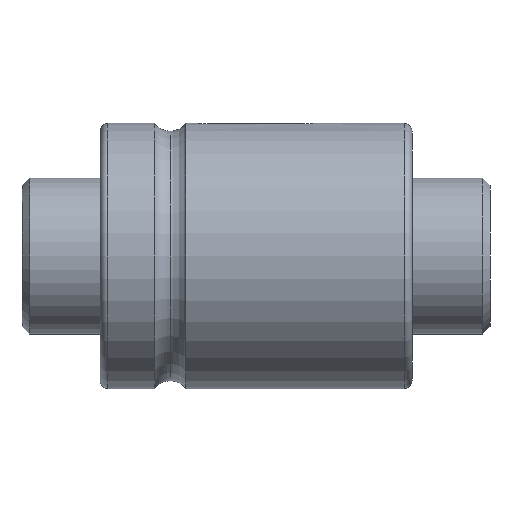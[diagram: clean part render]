
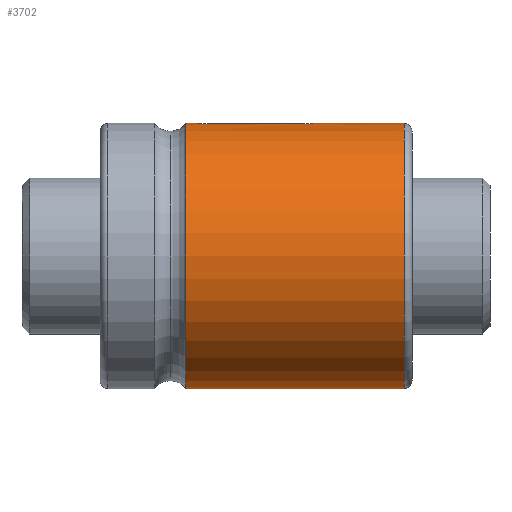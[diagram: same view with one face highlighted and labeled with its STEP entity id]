
A CAD part, front view. The second image highlights one B-rep face of the part: STEP entity #3702.
In plain terms, the highlighted cylindrical face has radius 17 mm (diameter 34 mm), a partial arc.
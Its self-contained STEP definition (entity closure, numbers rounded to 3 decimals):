
#9 = CARTESIAN_POINT ( 'NONE',  ( 13.517, -1.423, 16.94 ) ) ;
#46 = DIRECTION ( 'NONE',  ( -1., 0., 0. ) ) ;
#58 = DIRECTION ( 'NONE',  ( 0., 0., 1. ) ) ;
#69 = CARTESIAN_POINT ( 'NONE',  ( 13.086, -1.193, 16.958 ) ) ;
#105 = DIRECTION ( 'NONE',  ( -1., 0., 0. ) ) ;
#140 = CARTESIAN_POINT ( 'NONE',  ( 26.756, -1.31, 16.95 ) ) ;
#175 = EDGE_CURVE ( 'NONE', #746, #1050, #1422, .T. ) ;
#242 = EDGE_CURVE ( 'NONE', #2227, #2818, #3353, .T. ) ;
#322 = DIRECTION ( 'NONE',  ( -1., 0., 0. ) ) ;
#413 = CARTESIAN_POINT ( 'NONE',  ( 40., 0., -17. ) ) ;
#429 = CARTESIAN_POINT ( 'NONE',  ( 27.302, -0.751, 16.984 ) ) ;
#494 = CARTESIAN_POINT ( 'NONE',  ( 12.5, 0., 17. ) ) ;
#498 = ORIENTED_EDGE ( 'NONE', *, *, #242, .T. ) ;
#615 = CARTESIAN_POINT ( 'NONE',  ( 12.5, -0.198, 17. ) ) ;
#624 = LINE ( 'NONE', #413, #1995 ) ;
#631 = CARTESIAN_POINT ( 'NONE',  ( 40., -1.5, 16.934 ) ) ;
#698 = CARTESIAN_POINT ( 'NONE',  ( 27.452, -0.388, 16.996 ) ) ;
#711 = CARTESIAN_POINT ( 'NONE',  ( 26., -1.5, 16.934 ) ) ;
#746 = VERTEX_POINT ( 'NONE', #1139 ) ;
#773 = DIRECTION ( 'NONE',  ( -1., 0., 0. ) ) ;
#796 = AXIS2_PLACEMENT_3D ( 'NONE', #1143, #2580, #1741 ) ;
#799 = VECTOR ( 'NONE', #2875, 1000. ) ;
#931 = ORIENTED_EDGE ( 'NONE', *, *, #1130, .F. ) ;
#934 = EDGE_CURVE ( 'NONE', #2395, #2227, #3670, .T. ) ;
#966 = CARTESIAN_POINT ( 'NONE',  ( 39., 0., -17. ) ) ;
#975 = ORIENTED_EDGE ( 'NONE', *, *, #2378, .T. ) ;
#1016 = CARTESIAN_POINT ( 'NONE',  ( 26.395, -1.46, 16.937 ) ) ;
#1050 = VERTEX_POINT ( 'NONE', #3138 ) ;
#1130 = EDGE_CURVE ( 'NONE', #2893, #1050, #624, .T. ) ;
#1139 = CARTESIAN_POINT ( 'NONE',  ( 11., 0., 17. ) ) ;
#1143 = CARTESIAN_POINT ( 'NONE',  ( 11., 0., 0. ) ) ;
#1325 = B_SPLINE_CURVE_WITH_KNOTS ( 'NONE', 3,
 ( #3474, #3783, #1762, #2317, #9, #2049, #2269, #69, #2354, #1779, #2628, #3202, #615, #3218 ),
 .UNSPECIFIED., .F., .F.,
 ( 4, 2, 2, 2, 2, 2, 4 ),
 ( -0.002, -0.002, -0.002, -0.001, -0.001, -0.001, 0. ),
 .UNSPECIFIED. ) ;
#1326 = VERTEX_POINT ( 'NONE', #494 ) ;
#1404 = VERTEX_POINT ( 'NONE', #2567 ) ;
#1422 = CIRCLE ( 'NONE', #796, 17. ) ;
#1501 = CYLINDRICAL_SURFACE ( 'NONE', #3056, 17. ) ;
#1502 = CARTESIAN_POINT ( 'NONE',  ( 40., 0., 17. ) ) ;
#1518 = VECTOR ( 'NONE', #3248, 1000. ) ;
#1565 = CARTESIAN_POINT ( 'NONE',  ( 26.923, -1.199, 16.958 ) ) ;
#1600 = LINE ( 'NONE', #3190, #799 ) ;
#1619 = EDGE_LOOP ( 'NONE', ( #931, #3363, #3745, #2844, #498, #2717, #975, #3014 ) ) ;
#1741 = DIRECTION ( 'NONE',  ( 0., 0., 1. ) ) ;
#1762 = CARTESIAN_POINT ( 'NONE',  ( 13.803, -1.49, 16.935 ) ) ;
#1763 = CARTESIAN_POINT ( 'NONE',  ( 27.5, 0., 17. ) ) ;
#1779 = CARTESIAN_POINT ( 'NONE',  ( 12.801, -0.923, 16.975 ) ) ;
#1830 = EDGE_CURVE ( 'NONE', #2893, #1404, #2879, .T. ) ;
#1951 = DIRECTION ( 'NONE',  ( 0., 0., -1. ) ) ;
#1995 = VECTOR ( 'NONE', #105, 1000. ) ;
#2049 = CARTESIAN_POINT ( 'NONE',  ( 13.335, -1.348, 16.947 ) ) ;
#2152 = CARTESIAN_POINT ( 'NONE',  ( 27.423, -0.483, 16.993 ) ) ;
#2227 = VERTEX_POINT ( 'NONE', #2454 ) ;
#2269 = CARTESIAN_POINT ( 'NONE',  ( 13.249, -1.302, 16.95 ) ) ;
#2317 = CARTESIAN_POINT ( 'NONE',  ( 13.612, -1.452, 16.938 ) ) ;
#2338 = AXIS2_PLACEMENT_3D ( 'NONE', #2518, #773, #1951 ) ;
#2354 = CARTESIAN_POINT ( 'NONE',  ( 13.009, -1.13, 16.963 ) ) ;
#2378 = EDGE_CURVE ( 'NONE', #1326, #746, #1600, .T. ) ;
#2395 = VERTEX_POINT ( 'NONE', #1763 ) ;
#2454 = CARTESIAN_POINT ( 'NONE',  ( 26., -1.5, 16.934 ) ) ;
#2518 = CARTESIAN_POINT ( 'NONE',  ( 39., 0., 0. ) ) ;
#2567 = CARTESIAN_POINT ( 'NONE',  ( 39., 0., 17. ) ) ;
#2580 = DIRECTION ( 'NONE',  ( 1., 0., 0. ) ) ;
#2628 = CARTESIAN_POINT ( 'NONE',  ( 12.69, -0.756, 16.984 ) ) ;
#2705 = CARTESIAN_POINT ( 'NONE',  ( 27.5, -0.099, 17. ) ) ;
#2717 = ORIENTED_EDGE ( 'NONE', *, *, #3623, .T. ) ;
#2770 = VECTOR ( 'NONE', #322, 1000. ) ;
#2818 = VERTEX_POINT ( 'NONE', #2898 ) ;
#2837 = EDGE_CURVE ( 'NONE', #1404, #2395, #3530, .T. ) ;
#2844 = ORIENTED_EDGE ( 'NONE', *, *, #934, .T. ) ;
#2875 = DIRECTION ( 'NONE',  ( -1., 0., 0. ) ) ;
#2879 = CIRCLE ( 'NONE', #2338, 17. ) ;
#2893 = VERTEX_POINT ( 'NONE', #966 ) ;
#2898 = CARTESIAN_POINT ( 'NONE',  ( 14., -1.5, 16.934 ) ) ;
#2902 = CARTESIAN_POINT ( 'NONE',  ( 40., 0., 0. ) ) ;
#2977 = CARTESIAN_POINT ( 'NONE',  ( 27.348, -0.665, 16.987 ) ) ;
#2989 = CARTESIAN_POINT ( 'NONE',  ( 27.5, 0., 17. ) ) ;
#3014 = ORIENTED_EDGE ( 'NONE', *, *, #175, .T. ) ;
#3056 = AXIS2_PLACEMENT_3D ( 'NONE', #2902, #46, #58 ) ;
#3138 = CARTESIAN_POINT ( 'NONE',  ( 11., 0., -17. ) ) ;
#3190 = CARTESIAN_POINT ( 'NONE',  ( 40., 0., 17. ) ) ;
#3202 = CARTESIAN_POINT ( 'NONE',  ( 12.54, -0.395, 16.996 ) ) ;
#3218 = CARTESIAN_POINT ( 'NONE',  ( 12.5, 0., 17. ) ) ;
#3248 = DIRECTION ( 'NONE',  ( -1., 0., 0. ) ) ;
#3308 = CARTESIAN_POINT ( 'NONE',  ( 27.193, -0.914, 16.976 ) ) ;
#3353 = LINE ( 'NONE', #631, #1518 ) ;
#3363 = ORIENTED_EDGE ( 'NONE', *, *, #1830, .T. ) ;
#3474 = CARTESIAN_POINT ( 'NONE',  ( 14., -1.5, 16.934 ) ) ;
#3530 = LINE ( 'NONE', #1502, #2770 ) ;
#3581 = CARTESIAN_POINT ( 'NONE',  ( 26.198, -1.5, 16.934 ) ) ;
#3619 = CARTESIAN_POINT ( 'NONE',  ( 27.13, -0.991, 16.971 ) ) ;
#3623 = EDGE_CURVE ( 'NONE', #2818, #1326, #1325, .T. ) ;
#3631 = CARTESIAN_POINT ( 'NONE',  ( 27.49, -0.197, 16.999 ) ) ;
#3670 = B_SPLINE_CURVE_WITH_KNOTS ( 'NONE', 3,
 ( #2989, #2705, #3631, #698, #2152, #2977, #429, #3308, #3619, #1565, #140, #1016, #3581, #711 ),
 .UNSPECIFIED., .F., .F.,
 ( 4, 2, 2, 2, 2, 2, 4 ),
 ( 0.002, 0.003, 0.003, 0.003, 0.004, 0.004, 0.005 ),
 .UNSPECIFIED. ) ;
#3702 = ADVANCED_FACE ( 'NONE', ( #3709 ), #1501, .T. ) ;
#3709 = FACE_OUTER_BOUND ( 'NONE', #1619, .T. ) ;
#3745 = ORIENTED_EDGE ( 'NONE', *, *, #2837, .T. ) ;
#3783 = CARTESIAN_POINT ( 'NONE',  ( 13.901, -1.5, 16.934 ) ) ;
